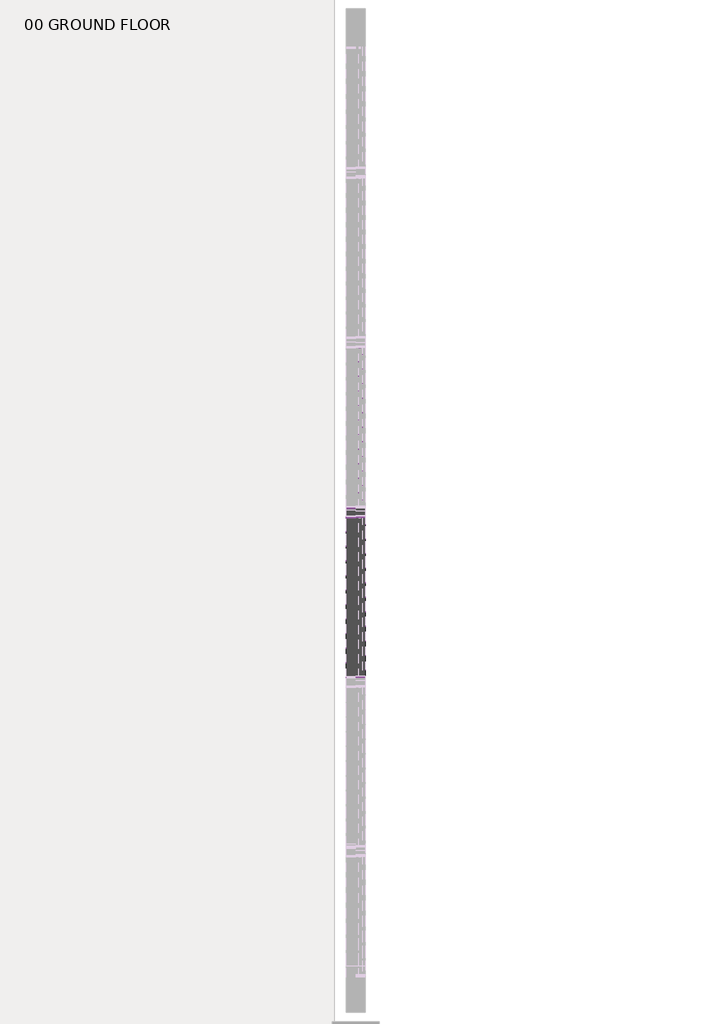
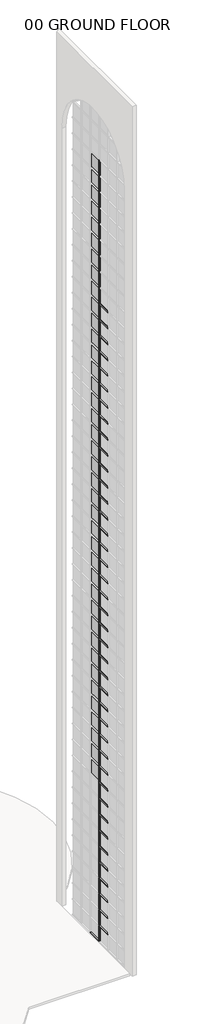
# One storey, part 18 of 33: 90 members, 39 plates.
"""IFC4 building model written with IfcOpenShell, lengths in millimetres."""

from ifc_helpers import new_model, si_unit, origin, place, context, project, spatial, transform, mapped, element, save
from components import member_14f97ceb, member_d1490fb0, member_2b49869a, system_panel_glazed_0919b3b7

model = new_model("IFC4")

# Units and contexts
model_context = context("Model", 3, world=origin())
ifc_project = project(units=[si_unit("LENGTHUNIT", "METRE", prefix="MILLI")], contexts=[model_context])

# Site, building, storey
site = spatial("IfcSite", under=ifc_project)
building = spatial("IfcBuilding", under=site)
storey = spatial("IfcBuildingStorey", under=building, Name="00 GROUND FLOOR", Elevation=0.0)

# Members
placement = place(None, origin())
member_shape = member_14f97ceb(model_context)
element("IfcMember", 1, ObjectType="Rectangular Mullion : 2.5\" x 5\" rectangular", at=placement, inside=storey, context=model_context, shape_type="MappedRepresentation", body=[
    mapped(member_shape, transform((44184.4050515, 4193.2678572, 0.0), x_axis=(0.0, 0.0, -1.0), y_axis=(1.0, 0.0, 0.0), z_axis=(0.0, -1.0, 0.0))),
])
member_2_shape = member_d1490fb0(model_context)
element("IfcMember", 2, ObjectType="Rectangular Mullion : 2.5\" x 5\" rectangular", at=placement, inside=storey, context=model_context, shape_type="MappedRepresentation", body=[
    mapped(member_2_shape, transform((44184.4050515, 4129.7678572, 1219.2), x_axis=(0.0, 0.0, 1.0), y_axis=(1.0, 0.0, 0.0), z_axis=(0.0, 1.0, 0.0))),
])
element("IfcMember", 3, ObjectType="Rectangular Mullion : 2.5\" x 5\" rectangular", at=placement, inside=storey, context=model_context, shape_type="MappedRepresentation", body=[
    mapped(member_2_shape, transform((44184.4050515, 4129.7678572, 2438.4), x_axis=(0.0, 0.0, 1.0), y_axis=(1.0, 0.0, 0.0), z_axis=(0.0, 1.0, 0.0))),
])
element("IfcMember", 4, ObjectType="Rectangular Mullion : 2.5\" x 5\" rectangular", at=placement, inside=storey, context=model_context, shape_type="MappedRepresentation", body=[
    mapped(member_2_shape, transform((44184.4050515, 4129.7678572, 3657.6), x_axis=(0.0, 0.0, 1.0), y_axis=(1.0, 0.0, 0.0), z_axis=(0.0, 1.0, 0.0))),
])
element("IfcMember", 5, ObjectType="Rectangular Mullion : 2.5\" x 5\" rectangular", at=placement, inside=storey, context=model_context, shape_type="MappedRepresentation", body=[
    mapped(member_2_shape, transform((44184.4050515, 4129.7678572, 4876.8), x_axis=(0.0, 0.0, 1.0), y_axis=(1.0, 0.0, 0.0), z_axis=(0.0, 1.0, 0.0))),
])
element("IfcMember", 6, ObjectType="Rectangular Mullion : 2.5\" x 5\" rectangular", at=placement, inside=storey, context=model_context, shape_type="MappedRepresentation", body=[
    mapped(member_2_shape, transform((44184.4050515, 4129.7678572, 6096.0), x_axis=(0.0, 0.0, 1.0), y_axis=(1.0, 0.0, 0.0), z_axis=(0.0, 1.0, 0.0))),
])
element("IfcMember", 7, ObjectType="Rectangular Mullion : 2.5\" x 5\" rectangular", at=placement, inside=storey, context=model_context, shape_type="MappedRepresentation", body=[
    mapped(member_2_shape, transform((44184.4050515, 4129.7678572, 7315.2), x_axis=(0.0, 0.0, 1.0), y_axis=(1.0, 0.0, 0.0), z_axis=(0.0, 1.0, 0.0))),
])
element("IfcMember", 8, ObjectType="Rectangular Mullion : 2.5\" x 5\" rectangular", at=placement, inside=storey, context=model_context, shape_type="MappedRepresentation", body=[
    mapped(member_2_shape, transform((44184.4050515, 4129.7678572, 8534.4), x_axis=(0.0, 0.0, 1.0), y_axis=(1.0, 0.0, 0.0), z_axis=(0.0, 1.0, 0.0))),
])
element("IfcMember", 9, ObjectType="Rectangular Mullion : 2.5\" x 5\" rectangular", at=placement, inside=storey, context=model_context, shape_type="MappedRepresentation", body=[
    mapped(member_2_shape, transform((44184.4050515, 4129.7678572, 9753.6), x_axis=(0.0, 0.0, 1.0), y_axis=(1.0, 0.0, 0.0), z_axis=(0.0, 1.0, 0.0))),
])
element("IfcMember", 10, ObjectType="Rectangular Mullion : 2.5\" x 5\" rectangular", at=placement, inside=storey, context=model_context, shape_type="MappedRepresentation", body=[
    mapped(member_2_shape, transform((44184.4050515, 4129.7678572, 10972.8), x_axis=(0.0, 0.0, 1.0), y_axis=(1.0, 0.0, 0.0), z_axis=(0.0, 1.0, 0.0))),
])
element("IfcMember", 11, ObjectType="Rectangular Mullion : 2.5\" x 5\" rectangular", at=placement, inside=storey, context=model_context, shape_type="MappedRepresentation", body=[
    mapped(member_2_shape, transform((44184.4050515, 4129.7678572, 12192.0), x_axis=(0.0, 0.0, 1.0), y_axis=(1.0, 0.0, 0.0), z_axis=(0.0, 1.0, 0.0))),
])
element("IfcMember", 12, ObjectType="Rectangular Mullion : 2.5\" x 5\" rectangular", at=placement, inside=storey, context=model_context, shape_type="MappedRepresentation", body=[
    mapped(member_2_shape, transform((44184.4050515, 4129.7678572, 13411.2), x_axis=(0.0, 0.0, 1.0), y_axis=(1.0, 0.0, 0.0), z_axis=(0.0, 1.0, 0.0))),
])
element("IfcMember", 13, ObjectType="Rectangular Mullion : 2.5\" x 5\" rectangular", at=placement, inside=storey, context=model_context, shape_type="MappedRepresentation", body=[
    mapped(member_2_shape, transform((44184.4050515, 4129.7678572, 14630.4), x_axis=(0.0, 0.0, 1.0), y_axis=(1.0, 0.0, 0.0), z_axis=(0.0, 1.0, 0.0))),
])
element("IfcMember", 14, ObjectType="Rectangular Mullion : 2.5\" x 5\" rectangular", at=placement, inside=storey, context=model_context, shape_type="MappedRepresentation", body=[
    mapped(member_2_shape, transform((44184.4050515, 4129.7678572, 15849.6), x_axis=(0.0, 0.0, 1.0), y_axis=(1.0, 0.0, 0.0), z_axis=(0.0, 1.0, 0.0))),
])
element("IfcMember", 15, ObjectType="Rectangular Mullion : 2.5\" x 5\" rectangular", at=placement, inside=storey, context=model_context, shape_type="MappedRepresentation", body=[
    mapped(member_2_shape, transform((44184.4050515, 4129.7678572, 17068.8), x_axis=(0.0, 0.0, 1.0), y_axis=(1.0, 0.0, 0.0), z_axis=(0.0, 1.0, 0.0))),
])
element("IfcMember", 16, ObjectType="Rectangular Mullion : 2.5\" x 5\" rectangular", at=placement, inside=storey, context=model_context, shape_type="MappedRepresentation", body=[
    mapped(member_2_shape, transform((44184.4050515, 4129.7678572, 18288.0), x_axis=(0.0, 0.0, 1.0), y_axis=(1.0, 0.0, 0.0), z_axis=(0.0, 1.0, 0.0))),
])
element("IfcMember", 17, ObjectType="Rectangular Mullion : 2.5\" x 5\" rectangular", at=placement, inside=storey, context=model_context, shape_type="MappedRepresentation", body=[
    mapped(member_2_shape, transform((44184.4050515, 4129.7678572, 19507.2), x_axis=(0.0, 0.0, 1.0), y_axis=(1.0, 0.0, 0.0), z_axis=(0.0, 1.0, 0.0))),
])
element("IfcMember", 18, ObjectType="Rectangular Mullion : 2.5\" x 5\" rectangular", at=placement, inside=storey, context=model_context, shape_type="MappedRepresentation", body=[
    mapped(member_2_shape, transform((44184.4050515, 4129.7678572, 20726.4), x_axis=(0.0, 0.0, 1.0), y_axis=(1.0, 0.0, 0.0), z_axis=(0.0, 1.0, 0.0))),
])
element("IfcMember", 19, ObjectType="Rectangular Mullion : 2.5\" x 5\" rectangular", at=placement, inside=storey, context=model_context, shape_type="MappedRepresentation", body=[
    mapped(member_2_shape, transform((44184.4050515, 4129.7678572, 21945.6), x_axis=(0.0, 0.0, 1.0), y_axis=(1.0, 0.0, 0.0), z_axis=(0.0, 1.0, 0.0))),
])
element("IfcMember", 20, ObjectType="Rectangular Mullion : 2.5\" x 5\" rectangular", at=placement, inside=storey, context=model_context, shape_type="MappedRepresentation", body=[
    mapped(member_2_shape, transform((44184.4050515, 4129.7678572, 23164.8), x_axis=(0.0, 0.0, 1.0), y_axis=(1.0, 0.0, 0.0), z_axis=(0.0, 1.0, 0.0))),
])
element("IfcMember", 21, ObjectType="Rectangular Mullion : 2.5\" x 5\" rectangular", at=placement, inside=storey, context=model_context, shape_type="MappedRepresentation", body=[
    mapped(member_2_shape, transform((44184.4050515, 4129.7678572, 24384.0), x_axis=(0.0, 0.0, 1.0), y_axis=(1.0, 0.0, 0.0), z_axis=(0.0, 1.0, 0.0))),
])
element("IfcMember", 22, ObjectType="Rectangular Mullion : 2.5\" x 5\" rectangular", at=placement, inside=storey, context=model_context, shape_type="MappedRepresentation", body=[
    mapped(member_2_shape, transform((44184.4050515, 4129.7678572, 25603.2), x_axis=(0.0, 0.0, 1.0), y_axis=(1.0, 0.0, 0.0), z_axis=(0.0, 1.0, 0.0))),
])
element("IfcMember", 23, ObjectType="Rectangular Mullion : 2.5\" x 5\" rectangular", at=placement, inside=storey, context=model_context, shape_type="MappedRepresentation", body=[
    mapped(member_2_shape, transform((44184.4050515, 4129.7678572, 26822.4), x_axis=(0.0, 0.0, 1.0), y_axis=(1.0, 0.0, 0.0), z_axis=(0.0, 1.0, 0.0))),
])
element("IfcMember", 24, ObjectType="Rectangular Mullion : 2.5\" x 5\" rectangular", at=placement, inside=storey, context=model_context, shape_type="MappedRepresentation", body=[
    mapped(member_2_shape, transform((44184.4050515, 4129.7678572, 28041.6), x_axis=(0.0, 0.0, 1.0), y_axis=(1.0, 0.0, 0.0), z_axis=(0.0, 1.0, 0.0))),
])
element("IfcMember", 25, ObjectType="Rectangular Mullion : 2.5\" x 5\" rectangular", at=placement, inside=storey, context=model_context, shape_type="MappedRepresentation", body=[
    mapped(member_2_shape, transform((44184.4050515, 4129.7678572, 29260.8), x_axis=(0.0, 0.0, 1.0), y_axis=(1.0, 0.0, 0.0), z_axis=(0.0, 1.0, 0.0))),
])
element("IfcMember", 26, ObjectType="Rectangular Mullion : 2.5\" x 5\" rectangular", at=placement, inside=storey, context=model_context, shape_type="MappedRepresentation", body=[
    mapped(member_2_shape, transform((44184.4050515, 4129.7678572, 30480.0), x_axis=(0.0, 0.0, 1.0), y_axis=(1.0, 0.0, 0.0), z_axis=(0.0, 1.0, 0.0))),
])
element("IfcMember", 27, ObjectType="Rectangular Mullion : 2.5\" x 5\" rectangular", at=placement, inside=storey, context=model_context, shape_type="MappedRepresentation", body=[
    mapped(member_2_shape, transform((44184.4050515, 4129.7678572, 31699.2), x_axis=(0.0, 0.0, 1.0), y_axis=(1.0, 0.0, 0.0), z_axis=(0.0, 1.0, 0.0))),
])
element("IfcMember", 28, ObjectType="Rectangular Mullion : 2.5\" x 5\" rectangular", at=placement, inside=storey, context=model_context, shape_type="MappedRepresentation", body=[
    mapped(member_2_shape, transform((44184.4050515, 4129.7678572, 32918.4), x_axis=(0.0, 0.0, 1.0), y_axis=(1.0, 0.0, 0.0), z_axis=(0.0, 1.0, 0.0))),
])
element("IfcMember", 29, ObjectType="Rectangular Mullion : 2.5\" x 5\" rectangular", at=placement, inside=storey, context=model_context, shape_type="MappedRepresentation", body=[
    mapped(member_2_shape, transform((44184.4050515, 4129.7678572, 34137.6), x_axis=(0.0, 0.0, 1.0), y_axis=(1.0, 0.0, 0.0), z_axis=(0.0, 1.0, 0.0))),
])
element("IfcMember", 30, ObjectType="Rectangular Mullion : 2.5\" x 5\" rectangular", at=placement, inside=storey, context=model_context, shape_type="MappedRepresentation", body=[
    mapped(member_2_shape, transform((44184.4050515, 4129.7678572, 35356.8), x_axis=(0.0, 0.0, 1.0), y_axis=(1.0, 0.0, 0.0), z_axis=(0.0, 1.0, 0.0))),
])
element("IfcMember", 31, ObjectType="Rectangular Mullion : 2.5\" x 5\" rectangular", at=placement, inside=storey, context=model_context, shape_type="MappedRepresentation", body=[
    mapped(member_2_shape, transform((44184.4050515, 4129.7678572, 36576.0), x_axis=(0.0, 0.0, 1.0), y_axis=(1.0, 0.0, 0.0), z_axis=(0.0, 1.0, 0.0))),
])
element("IfcMember", 32, ObjectType="Rectangular Mullion : 2.5\" x 5\" rectangular", at=placement, inside=storey, context=model_context, shape_type="MappedRepresentation", body=[
    mapped(member_2_shape, transform((44184.4050515, 4129.7678572, 37795.2), x_axis=(0.0, 0.0, 1.0), y_axis=(1.0, 0.0, 0.0), z_axis=(0.0, 1.0, 0.0))),
])
element("IfcMember", 33, ObjectType="Rectangular Mullion : 2.5\" x 5\" rectangular", at=placement, inside=storey, context=model_context, shape_type="MappedRepresentation", body=[
    mapped(member_2_shape, transform((44184.4050515, 4129.7678572, 39014.4), x_axis=(0.0, 0.0, 1.0), y_axis=(1.0, 0.0, 0.0), z_axis=(0.0, 1.0, 0.0))),
])
element("IfcMember", 34, ObjectType="Rectangular Mullion : 2.5\" x 5\" rectangular", at=placement, inside=storey, context=model_context, shape_type="MappedRepresentation", body=[
    mapped(member_2_shape, transform((44184.4050515, 4129.7678572, 40233.6), x_axis=(0.0, 0.0, 1.0), y_axis=(1.0, 0.0, 0.0), z_axis=(0.0, 1.0, 0.0))),
])
element("IfcMember", 35, ObjectType="Rectangular Mullion : 2.5\" x 5\" rectangular", at=placement, inside=storey, context=model_context, shape_type="MappedRepresentation", body=[
    mapped(member_2_shape, transform((44184.4050515, 4129.7678572, 41452.8), x_axis=(0.0, 0.0, 1.0), y_axis=(1.0, 0.0, 0.0), z_axis=(0.0, 1.0, 0.0))),
])
element("IfcMember", 36, ObjectType="Rectangular Mullion : 2.5\" x 5\" rectangular", at=placement, inside=storey, context=model_context, shape_type="MappedRepresentation", body=[
    mapped(member_2_shape, transform((44184.4050515, 4129.7678572, 42672.0), x_axis=(0.0, 0.0, 1.0), y_axis=(1.0, 0.0, 0.0), z_axis=(0.0, 1.0, 0.0))),
])
element("IfcMember", 37, ObjectType="Rectangular Mullion : 2.5\" x 5\" rectangular", at=placement, inside=storey, context=model_context, shape_type="MappedRepresentation", body=[
    mapped(member_2_shape, transform((44184.4050515, 4129.7678572, 43891.2), x_axis=(0.0, 0.0, 1.0), y_axis=(1.0, 0.0, 0.0), z_axis=(0.0, 1.0, 0.0))),
])
element("IfcMember", 38, ObjectType="Rectangular Mullion : 2.5\" x 5\" rectangular", at=placement, inside=storey, context=model_context, shape_type="MappedRepresentation", body=[
    mapped(member_2_shape, transform((44184.4050515, 4129.7678572, 45110.4), x_axis=(0.0, 0.0, 1.0), y_axis=(1.0, 0.0, 0.0), z_axis=(0.0, 1.0, 0.0))),
])
element("IfcMember", 39, ObjectType="Rectangular Mullion : 2.5\" x 5\" rectangular", at=placement, inside=storey, context=model_context, shape_type="MappedRepresentation", body=[
    mapped(member_2_shape, transform((44184.4050515, 4129.7678572, 46329.6), x_axis=(0.0, 0.0, 1.0), y_axis=(1.0, 0.0, 0.0), z_axis=(0.0, 1.0, 0.0))),
])
element("IfcMember", 40, ObjectType="Rectangular Mullion : 2.5\" x 5\" rectangular", at=placement, inside=storey, context=model_context, shape_type="MappedRepresentation", body=[
    mapped(member_2_shape, transform((44184.4050515, 4129.7678572, 47548.8), x_axis=(0.0, 0.0, 1.0), y_axis=(1.0, 0.0, 0.0), z_axis=(0.0, 1.0, 0.0))),
])
element("IfcMember", 41, ObjectType="Rectangular Mullion : 2.5\" x 5\" rectangular", at=placement, inside=storey, context=model_context, shape_type="MappedRepresentation", body=[
    mapped(member_2_shape, transform((44184.4050515, 4129.7678572, 48768.0), x_axis=(0.0, 0.0, 1.0), y_axis=(1.0, 0.0, 0.0), z_axis=(0.0, 1.0, 0.0))),
])
member_3_shape = member_2b49869a(model_context)
element("IfcMember", 42, ObjectType="Rectangular Mullion : 2.5\" x 5\" rectangular", at=placement, inside=storey, context=model_context, shape_type="MappedRepresentation", body=[
    mapped(member_3_shape, transform((44184.4050515, 4161.5178572, 0.0), x_axis=(0.0, 1.0, 0.0), y_axis=(1.0, 0.0, 0.0), z_axis=(0.0, 0.0, -1.0))),
])
element("IfcMember", 43, ObjectType="Rectangular Mullion : 2.5\" x 5\" rectangular", at=placement, inside=storey, context=model_context, shape_type="MappedRepresentation", body=[
    mapped(member_3_shape, transform((44184.4050515, 4161.5178572, 1219.2), x_axis=(0.0, 1.0, 0.0), y_axis=(1.0, 0.0, 0.0), z_axis=(0.0, 0.0, -1.0))),
])
element("IfcMember", 44, ObjectType="Rectangular Mullion : 2.5\" x 5\" rectangular", at=placement, inside=storey, context=model_context, shape_type="MappedRepresentation", body=[
    mapped(member_3_shape, transform((44184.4050515, 4161.5178572, 2438.4), x_axis=(0.0, 1.0, 0.0), y_axis=(1.0, 0.0, 0.0), z_axis=(0.0, 0.0, -1.0))),
])
element("IfcMember", 45, ObjectType="Rectangular Mullion : 2.5\" x 5\" rectangular", at=placement, inside=storey, context=model_context, shape_type="MappedRepresentation", body=[
    mapped(member_3_shape, transform((44184.4050515, 4161.5178572, 3657.6), x_axis=(0.0, 1.0, 0.0), y_axis=(1.0, 0.0, 0.0), z_axis=(0.0, 0.0, -1.0))),
])
element("IfcMember", 46, ObjectType="Rectangular Mullion : 2.5\" x 5\" rectangular", at=placement, inside=storey, context=model_context, shape_type="MappedRepresentation", body=[
    mapped(member_3_shape, transform((44184.4050515, 4161.5178572, 4876.8), x_axis=(0.0, 1.0, 0.0), y_axis=(1.0, 0.0, 0.0), z_axis=(0.0, 0.0, -1.0))),
])
element("IfcMember", 47, ObjectType="Rectangular Mullion : 2.5\" x 5\" rectangular", at=placement, inside=storey, context=model_context, shape_type="MappedRepresentation", body=[
    mapped(member_3_shape, transform((44184.4050515, 4161.5178572, 6096.0), x_axis=(0.0, 1.0, 0.0), y_axis=(1.0, 0.0, 0.0), z_axis=(0.0, 0.0, -1.0))),
])
element("IfcMember", 48, ObjectType="Rectangular Mullion : 2.5\" x 5\" rectangular", at=placement, inside=storey, context=model_context, shape_type="MappedRepresentation", body=[
    mapped(member_3_shape, transform((44184.4050515, 4161.5178572, 7315.2), x_axis=(0.0, 1.0, 0.0), y_axis=(1.0, 0.0, 0.0), z_axis=(0.0, 0.0, -1.0))),
])
element("IfcMember", 49, ObjectType="Rectangular Mullion : 2.5\" x 5\" rectangular", at=placement, inside=storey, context=model_context, shape_type="MappedRepresentation", body=[
    mapped(member_3_shape, transform((44184.4050515, 4161.5178572, 8534.4), x_axis=(0.0, 1.0, 0.0), y_axis=(1.0, 0.0, 0.0), z_axis=(0.0, 0.0, -1.0))),
])
element("IfcMember", 50, ObjectType="Rectangular Mullion : 2.5\" x 5\" rectangular", at=placement, inside=storey, context=model_context, shape_type="MappedRepresentation", body=[
    mapped(member_3_shape, transform((44184.4050515, 4161.5178572, 9753.6), x_axis=(0.0, 1.0, 0.0), y_axis=(1.0, 0.0, 0.0), z_axis=(0.0, 0.0, -1.0))),
])
element("IfcMember", 51, ObjectType="Rectangular Mullion : 2.5\" x 5\" rectangular", at=placement, inside=storey, context=model_context, shape_type="MappedRepresentation", body=[
    mapped(member_3_shape, transform((44184.4050515, 4161.5178572, 10972.8), x_axis=(0.0, 1.0, 0.0), y_axis=(1.0, 0.0, 0.0), z_axis=(0.0, 0.0, -1.0))),
])
element("IfcMember", 52, ObjectType="Rectangular Mullion : 2.5\" x 5\" rectangular", at=placement, inside=storey, context=model_context, shape_type="MappedRepresentation", body=[
    mapped(member_3_shape, transform((44184.4050515, 4161.5178572, 12192.0), x_axis=(0.0, 1.0, 0.0), y_axis=(1.0, 0.0, 0.0), z_axis=(0.0, 0.0, -1.0))),
])
element("IfcMember", 53, ObjectType="Rectangular Mullion : 2.5\" x 5\" rectangular", at=placement, inside=storey, context=model_context, shape_type="MappedRepresentation", body=[
    mapped(member_3_shape, transform((44184.4050515, 4161.5178572, 13411.2), x_axis=(0.0, 1.0, 0.0), y_axis=(1.0, 0.0, 0.0), z_axis=(0.0, 0.0, -1.0))),
])
element("IfcMember", 54, ObjectType="Rectangular Mullion : 2.5\" x 5\" rectangular", at=placement, inside=storey, context=model_context, shape_type="MappedRepresentation", body=[
    mapped(member_3_shape, transform((44184.4050515, 4161.5178572, 14630.4), x_axis=(0.0, 1.0, 0.0), y_axis=(1.0, 0.0, 0.0), z_axis=(0.0, 0.0, -1.0))),
])
element("IfcMember", 55, ObjectType="Rectangular Mullion : 2.5\" x 5\" rectangular", at=placement, inside=storey, context=model_context, shape_type="MappedRepresentation", body=[
    mapped(member_3_shape, transform((44184.4050515, 4161.5178572, 15849.6), x_axis=(0.0, 1.0, 0.0), y_axis=(1.0, 0.0, 0.0), z_axis=(0.0, 0.0, -1.0))),
])
element("IfcMember", 56, ObjectType="Rectangular Mullion : 2.5\" x 5\" rectangular", at=placement, inside=storey, context=model_context, shape_type="MappedRepresentation", body=[
    mapped(member_3_shape, transform((44184.4050515, 4161.5178572, 17068.8), x_axis=(0.0, 1.0, 0.0), y_axis=(1.0, 0.0, 0.0), z_axis=(0.0, 0.0, -1.0))),
])
element("IfcMember", 57, ObjectType="Rectangular Mullion : 2.5\" x 5\" rectangular", at=placement, inside=storey, context=model_context, shape_type="MappedRepresentation", body=[
    mapped(member_3_shape, transform((44184.4050515, 4161.5178572, 18288.0), x_axis=(0.0, 1.0, 0.0), y_axis=(1.0, 0.0, 0.0), z_axis=(0.0, 0.0, -1.0))),
])
element("IfcMember", 58, ObjectType="Rectangular Mullion : 2.5\" x 5\" rectangular", at=placement, inside=storey, context=model_context, shape_type="MappedRepresentation", body=[
    mapped(member_3_shape, transform((44184.4050515, 4161.5178572, 19507.2), x_axis=(0.0, 1.0, 0.0), y_axis=(1.0, 0.0, 0.0), z_axis=(0.0, 0.0, -1.0))),
])
element("IfcMember", 59, ObjectType="Rectangular Mullion : 2.5\" x 5\" rectangular", at=placement, inside=storey, context=model_context, shape_type="MappedRepresentation", body=[
    mapped(member_3_shape, transform((44184.4050515, 4161.5178572, 20726.4), x_axis=(0.0, 1.0, 0.0), y_axis=(1.0, 0.0, 0.0), z_axis=(0.0, 0.0, -1.0))),
])
element("IfcMember", 60, ObjectType="Rectangular Mullion : 2.5\" x 5\" rectangular", at=placement, inside=storey, context=model_context, shape_type="MappedRepresentation", body=[
    mapped(member_3_shape, transform((44184.4050515, 4161.5178572, 21945.6), x_axis=(0.0, 1.0, 0.0), y_axis=(1.0, 0.0, 0.0), z_axis=(0.0, 0.0, -1.0))),
])
element("IfcMember", 61, ObjectType="Rectangular Mullion : 2.5\" x 5\" rectangular", at=placement, inside=storey, context=model_context, shape_type="MappedRepresentation", body=[
    mapped(member_3_shape, transform((44184.4050515, 4161.5178572, 23164.8), x_axis=(0.0, 1.0, 0.0), y_axis=(1.0, 0.0, 0.0), z_axis=(0.0, 0.0, -1.0))),
])
element("IfcMember", 62, ObjectType="Rectangular Mullion : 2.5\" x 5\" rectangular", at=placement, inside=storey, context=model_context, shape_type="MappedRepresentation", body=[
    mapped(member_3_shape, transform((44184.4050515, 4161.5178572, 24384.0), x_axis=(0.0, 1.0, 0.0), y_axis=(1.0, 0.0, 0.0), z_axis=(0.0, 0.0, -1.0))),
])
element("IfcMember", 63, ObjectType="Rectangular Mullion : 2.5\" x 5\" rectangular", at=placement, inside=storey, context=model_context, shape_type="MappedRepresentation", body=[
    mapped(member_3_shape, transform((44184.4050515, 4161.5178572, 25603.2), x_axis=(0.0, 1.0, 0.0), y_axis=(1.0, 0.0, 0.0), z_axis=(0.0, 0.0, -1.0))),
])
element("IfcMember", 64, ObjectType="Rectangular Mullion : 2.5\" x 5\" rectangular", at=placement, inside=storey, context=model_context, shape_type="MappedRepresentation", body=[
    mapped(member_3_shape, transform((44184.4050515, 4161.5178572, 26822.4), x_axis=(0.0, 1.0, 0.0), y_axis=(1.0, 0.0, 0.0), z_axis=(0.0, 0.0, -1.0))),
])
element("IfcMember", 65, ObjectType="Rectangular Mullion : 2.5\" x 5\" rectangular", at=placement, inside=storey, context=model_context, shape_type="MappedRepresentation", body=[
    mapped(member_3_shape, transform((44184.4050515, 4161.5178572, 28041.6), x_axis=(0.0, 1.0, 0.0), y_axis=(1.0, 0.0, 0.0), z_axis=(0.0, 0.0, -1.0))),
])
element("IfcMember", 66, ObjectType="Rectangular Mullion : 2.5\" x 5\" rectangular", at=placement, inside=storey, context=model_context, shape_type="MappedRepresentation", body=[
    mapped(member_3_shape, transform((44184.4050515, 4161.5178572, 29260.8), x_axis=(0.0, 1.0, 0.0), y_axis=(1.0, 0.0, 0.0), z_axis=(0.0, 0.0, -1.0))),
])
element("IfcMember", 67, ObjectType="Rectangular Mullion : 2.5\" x 5\" rectangular", at=placement, inside=storey, context=model_context, shape_type="MappedRepresentation", body=[
    mapped(member_3_shape, transform((44184.4050515, 4161.5178572, 30480.0), x_axis=(0.0, 1.0, 0.0), y_axis=(1.0, 0.0, 0.0), z_axis=(0.0, 0.0, -1.0))),
])
element("IfcMember", 68, ObjectType="Rectangular Mullion : 2.5\" x 5\" rectangular", at=placement, inside=storey, context=model_context, shape_type="MappedRepresentation", body=[
    mapped(member_3_shape, transform((44184.4050515, 4161.5178572, 31699.2), x_axis=(0.0, 1.0, 0.0), y_axis=(1.0, 0.0, 0.0), z_axis=(0.0, 0.0, -1.0))),
])
element("IfcMember", 69, ObjectType="Rectangular Mullion : 2.5\" x 5\" rectangular", at=placement, inside=storey, context=model_context, shape_type="MappedRepresentation", body=[
    mapped(member_3_shape, transform((44184.4050515, 4161.5178572, 32918.4), x_axis=(0.0, 1.0, 0.0), y_axis=(1.0, 0.0, 0.0), z_axis=(0.0, 0.0, -1.0))),
])
element("IfcMember", 70, ObjectType="Rectangular Mullion : 2.5\" x 5\" rectangular", at=placement, inside=storey, context=model_context, shape_type="MappedRepresentation", body=[
    mapped(member_3_shape, transform((44184.4050515, 4161.5178572, 34137.6), x_axis=(0.0, 1.0, 0.0), y_axis=(1.0, 0.0, 0.0), z_axis=(0.0, 0.0, -1.0))),
])
element("IfcMember", 71, ObjectType="Rectangular Mullion : 2.5\" x 5\" rectangular", at=placement, inside=storey, context=model_context, shape_type="MappedRepresentation", body=[
    mapped(member_3_shape, transform((44184.4050515, 4161.5178572, 35356.8), x_axis=(0.0, 1.0, 0.0), y_axis=(1.0, 0.0, 0.0), z_axis=(0.0, 0.0, -1.0))),
])
element("IfcMember", 72, ObjectType="Rectangular Mullion : 2.5\" x 5\" rectangular", at=placement, inside=storey, context=model_context, shape_type="MappedRepresentation", body=[
    mapped(member_3_shape, transform((44184.4050515, 4161.5178572, 36576.0), x_axis=(0.0, 1.0, 0.0), y_axis=(1.0, 0.0, 0.0), z_axis=(0.0, 0.0, -1.0))),
])
element("IfcMember", 73, ObjectType="Rectangular Mullion : 2.5\" x 5\" rectangular", at=placement, inside=storey, context=model_context, shape_type="MappedRepresentation", body=[
    mapped(member_3_shape, transform((44184.4050515, 4161.5178572, 37795.2), x_axis=(0.0, 1.0, 0.0), y_axis=(1.0, 0.0, 0.0), z_axis=(0.0, 0.0, -1.0))),
])
element("IfcMember", 74, ObjectType="Rectangular Mullion : 2.5\" x 5\" rectangular", at=placement, inside=storey, context=model_context, shape_type="MappedRepresentation", body=[
    mapped(member_3_shape, transform((44184.4050515, 4161.5178572, 39014.4), x_axis=(0.0, 1.0, 0.0), y_axis=(1.0, 0.0, 0.0), z_axis=(0.0, 0.0, -1.0))),
])
element("IfcMember", 75, ObjectType="Rectangular Mullion : 2.5\" x 5\" rectangular", at=placement, inside=storey, context=model_context, shape_type="MappedRepresentation", body=[
    mapped(member_3_shape, transform((44184.4050515, 4161.5178572, 40233.6), x_axis=(0.0, 1.0, 0.0), y_axis=(1.0, 0.0, 0.0), z_axis=(0.0, 0.0, -1.0))),
])
element("IfcMember", 76, ObjectType="Rectangular Mullion : 2.5\" x 5\" rectangular", at=placement, inside=storey, context=model_context, shape_type="MappedRepresentation", body=[
    mapped(member_3_shape, transform((44184.4050515, 4161.5178572, 41452.8), x_axis=(0.0, 1.0, 0.0), y_axis=(1.0, 0.0, 0.0), z_axis=(0.0, 0.0, -1.0))),
])
element("IfcMember", 77, ObjectType="Rectangular Mullion : 2.5\" x 5\" rectangular", at=placement, inside=storey, context=model_context, shape_type="MappedRepresentation", body=[
    mapped(member_3_shape, transform((44184.4050515, 4161.5178572, 42672.0), x_axis=(0.0, 1.0, 0.0), y_axis=(1.0, 0.0, 0.0), z_axis=(0.0, 0.0, -1.0))),
])
element("IfcMember", 78, ObjectType="Rectangular Mullion : 2.5\" x 5\" rectangular", at=placement, inside=storey, context=model_context, shape_type="MappedRepresentation", body=[
    mapped(member_3_shape, transform((44184.4050515, 4161.5178572, 43891.2), x_axis=(0.0, 1.0, 0.0), y_axis=(1.0, 0.0, 0.0), z_axis=(0.0, 0.0, -1.0))),
])
element("IfcMember", 79, ObjectType="Rectangular Mullion : 2.5\" x 5\" rectangular", at=placement, inside=storey, context=model_context, shape_type="MappedRepresentation", body=[
    mapped(member_3_shape, transform((44184.4050515, 4161.5178572, 45110.4), x_axis=(0.0, 1.0, 0.0), y_axis=(1.0, 0.0, 0.0), z_axis=(0.0, 0.0, -1.0))),
])
element("IfcMember", 80, ObjectType="Rectangular Mullion : 2.5\" x 5\" rectangular", at=placement, inside=storey, context=model_context, shape_type="MappedRepresentation", body=[
    mapped(member_3_shape, transform((44184.4050515, 4161.5178572, 46329.6), x_axis=(0.0, 1.0, 0.0), y_axis=(1.0, 0.0, 0.0), z_axis=(0.0, 0.0, -1.0))),
])
element("IfcMember", 81, ObjectType="Rectangular Mullion : 2.5\" x 5\" rectangular", at=placement, inside=storey, context=model_context, shape_type="MappedRepresentation", body=[
    mapped(member_3_shape, transform((44184.4050515, 4161.5178572, 47548.8), x_axis=(0.0, 1.0, 0.0), y_axis=(1.0, 0.0, 0.0), z_axis=(0.0, 0.0, -1.0))),
])
element("IfcMember", 82, ObjectType="Rectangular Mullion : 2.5\" x 5\" rectangular", at=placement, inside=storey, context=model_context, shape_type="MappedRepresentation", body=[
    mapped(member_3_shape, transform((44184.4050515, 4161.5178572, 48768.0), x_axis=(0.0, 1.0, 0.0), y_axis=(1.0, 0.0, 0.0), z_axis=(0.0, 0.0, -1.0))),
])
element("IfcMember", 83, ObjectType="Rectangular Mullion : 2.5\" x 5\" rectangular", at=placement, inside=storey, context=model_context, shape_type="MappedRepresentation", body=[
    mapped(member_3_shape, transform((44184.4050515, 4161.5178572, 49987.2), x_axis=(0.0, 1.0, 0.0), y_axis=(1.0, 0.0, 0.0), z_axis=(0.0, 0.0, -1.0))),
])
element("IfcMember", 84, ObjectType="Rectangular Mullion : 2.5\" x 5\" rectangular", at=placement, inside=storey, context=model_context, shape_type="MappedRepresentation", body=[
    mapped(member_3_shape, transform((44184.4050515, 4161.5178572, 51206.4), x_axis=(0.0, 1.0, 0.0), y_axis=(1.0, 0.0, 0.0), z_axis=(0.0, 0.0, -1.0))),
])
element("IfcMember", 85, ObjectType="Rectangular Mullion : 2.5\" x 5\" rectangular", at=placement, inside=storey, context=model_context, shape_type="MappedRepresentation", body=[
    mapped(member_3_shape, transform((44184.4050515, 4161.5178572, 52425.6), x_axis=(0.0, 1.0, 0.0), y_axis=(1.0, 0.0, 0.0), z_axis=(0.0, 0.0, -1.0))),
])
element("IfcMember", 86, ObjectType="Rectangular Mullion : 2.5\" x 5\" rectangular", at=placement, inside=storey, context=model_context, shape_type="MappedRepresentation", body=[
    mapped(member_3_shape, transform((44184.4050515, 4161.5178572, 53644.8), x_axis=(0.0, 1.0, 0.0), y_axis=(1.0, 0.0, 0.0), z_axis=(0.0, 0.0, -1.0))),
])
element("IfcMember", 87, ObjectType="Rectangular Mullion : 2.5\" x 5\" rectangular", at=placement, inside=storey, context=model_context, shape_type="MappedRepresentation", body=[
    mapped(member_3_shape, transform((44184.4050515, 4161.5178572, 54864.0), x_axis=(0.0, 1.0, 0.0), y_axis=(1.0, 0.0, 0.0), z_axis=(0.0, 0.0, -1.0))),
])
element("IfcMember", 88, ObjectType="Rectangular Mullion : 2.5\" x 5\" rectangular", at=placement, inside=storey, context=model_context, shape_type="MappedRepresentation", body=[
    mapped(member_3_shape, transform((44184.4050515, 4161.5178572, 56083.2), x_axis=(0.0, 1.0, 0.0), y_axis=(1.0, 0.0, 0.0), z_axis=(0.0, 0.0, -1.0))),
])
element("IfcMember", 89, ObjectType="Rectangular Mullion : 2.5\" x 5\" rectangular", at=placement, inside=storey, context=model_context, shape_type="MappedRepresentation", body=[
    mapped(member_3_shape, transform((44184.4050515, 4161.5178572, 57302.4), x_axis=(0.0, 1.0, 0.0), y_axis=(1.0, 0.0, 0.0), z_axis=(0.0, 0.0, -1.0))),
])
element("IfcMember", 90, ObjectType="Rectangular Mullion : 2.5\" x 5\" rectangular", at=placement, inside=storey, context=model_context, shape_type="MappedRepresentation", body=[
    mapped(member_3_shape, transform((44184.4050515, 4161.5178572, 58521.6), x_axis=(0.0, 1.0, 0.0), y_axis=(1.0, 0.0, 0.0), z_axis=(0.0, 0.0, -1.0))),
])

# Plates
system_panel_glazed_shape = system_panel_glazed_0919b3b7(model_context)
element("IfcPlate", 91, ObjectType="System Panel : Glazed", at=placement, inside=storey, context=model_context, shape_type="MappedRepresentation", body=[
    mapped(system_panel_glazed_shape, transform((44184.4050515, 4727.575, 12223.75), x_axis=(0.0, 1.0, 0.0), y_axis=(-1.0, 0.0, 0.0), z_axis=(0.0, 0.0, 1.0))),
])
element("IfcPlate", 92, ObjectType="System Panel : Glazed", at=placement, inside=storey, context=model_context, shape_type="MappedRepresentation", body=[
    mapped(system_panel_glazed_shape, transform((44184.4050515, 4727.575, 13442.95), x_axis=(0.0, 1.0, 0.0), y_axis=(-1.0, 0.0, 0.0), z_axis=(0.0, 0.0, 1.0))),
])
element("IfcPlate", 93, ObjectType="System Panel : Glazed", at=placement, inside=storey, context=model_context, shape_type="MappedRepresentation", body=[
    mapped(system_panel_glazed_shape, transform((44184.4050515, 4727.575, 14662.15), x_axis=(0.0, 1.0, 0.0), y_axis=(-1.0, 0.0, 0.0), z_axis=(0.0, 0.0, 1.0))),
])
element("IfcPlate", 94, ObjectType="System Panel : Glazed", at=placement, inside=storey, context=model_context, shape_type="MappedRepresentation", body=[
    mapped(system_panel_glazed_shape, transform((44184.4050515, 4727.575, 15881.35), x_axis=(0.0, 1.0, 0.0), y_axis=(-1.0, 0.0, 0.0), z_axis=(0.0, 0.0, 1.0))),
])
element("IfcPlate", 95, ObjectType="System Panel : Glazed", at=placement, inside=storey, context=model_context, shape_type="MappedRepresentation", body=[
    mapped(system_panel_glazed_shape, transform((44184.4050515, 4727.575, 17100.55), x_axis=(0.0, 1.0, 0.0), y_axis=(-1.0, 0.0, 0.0), z_axis=(0.0, 0.0, 1.0))),
])
element("IfcPlate", 96, ObjectType="System Panel : Glazed", at=placement, inside=storey, context=model_context, shape_type="MappedRepresentation", body=[
    mapped(system_panel_glazed_shape, transform((44184.4050515, 4727.575, 18319.75), x_axis=(0.0, 1.0, 0.0), y_axis=(-1.0, 0.0, 0.0), z_axis=(0.0, 0.0, 1.0))),
])
element("IfcPlate", 97, ObjectType="System Panel : Glazed", at=placement, inside=storey, context=model_context, shape_type="MappedRepresentation", body=[
    mapped(system_panel_glazed_shape, transform((44184.4050515, 4727.575, 19538.95), x_axis=(0.0, 1.0, 0.0), y_axis=(-1.0, 0.0, 0.0), z_axis=(0.0, 0.0, 1.0))),
])
element("IfcPlate", 98, ObjectType="System Panel : Glazed", at=placement, inside=storey, context=model_context, shape_type="MappedRepresentation", body=[
    mapped(system_panel_glazed_shape, transform((44184.4050515, 4727.575, 20758.15), x_axis=(0.0, 1.0, 0.0), y_axis=(-1.0, 0.0, 0.0), z_axis=(0.0, 0.0, 1.0))),
])
element("IfcPlate", 99, ObjectType="System Panel : Glazed", at=placement, inside=storey, context=model_context, shape_type="MappedRepresentation", body=[
    mapped(system_panel_glazed_shape, transform((44184.4050515, 4727.575, 21977.35), x_axis=(0.0, 1.0, 0.0), y_axis=(-1.0, 0.0, 0.0), z_axis=(0.0, 0.0, 1.0))),
])
element("IfcPlate", 100, ObjectType="System Panel : Glazed", at=placement, inside=storey, context=model_context, shape_type="MappedRepresentation", body=[
    mapped(system_panel_glazed_shape, transform((44184.4050515, 4727.575, 23196.55), x_axis=(0.0, 1.0, 0.0), y_axis=(-1.0, 0.0, 0.0), z_axis=(0.0, 0.0, 1.0))),
])
element("IfcPlate", 101, ObjectType="System Panel : Glazed", at=placement, inside=storey, context=model_context, shape_type="MappedRepresentation", body=[
    mapped(system_panel_glazed_shape, transform((44184.4050515, 4727.575, 24415.75), x_axis=(0.0, 1.0, 0.0), y_axis=(-1.0, 0.0, 0.0), z_axis=(0.0, 0.0, 1.0))),
])
element("IfcPlate", 102, ObjectType="System Panel : Glazed", at=placement, inside=storey, context=model_context, shape_type="MappedRepresentation", body=[
    mapped(system_panel_glazed_shape, transform((44184.4050515, 4727.575, 25634.95), x_axis=(0.0, 1.0, 0.0), y_axis=(-1.0, 0.0, 0.0), z_axis=(0.0, 0.0, 1.0))),
])
element("IfcPlate", 103, ObjectType="System Panel : Glazed", at=placement, inside=storey, context=model_context, shape_type="MappedRepresentation", body=[
    mapped(system_panel_glazed_shape, transform((44184.4050515, 4727.575, 26854.15), x_axis=(0.0, 1.0, 0.0), y_axis=(-1.0, 0.0, 0.0), z_axis=(0.0, 0.0, 1.0))),
])
element("IfcPlate", 104, ObjectType="System Panel : Glazed", at=placement, inside=storey, context=model_context, shape_type="MappedRepresentation", body=[
    mapped(system_panel_glazed_shape, transform((44184.4050515, 4727.575, 28073.35), x_axis=(0.0, 1.0, 0.0), y_axis=(-1.0, 0.0, 0.0), z_axis=(0.0, 0.0, 1.0))),
])
element("IfcPlate", 105, ObjectType="System Panel : Glazed", at=placement, inside=storey, context=model_context, shape_type="MappedRepresentation", body=[
    mapped(system_panel_glazed_shape, transform((44184.4050515, 4727.575, 29292.55), x_axis=(0.0, 1.0, 0.0), y_axis=(-1.0, 0.0, 0.0), z_axis=(0.0, 0.0, 1.0))),
])
element("IfcPlate", 106, ObjectType="System Panel : Glazed", at=placement, inside=storey, context=model_context, shape_type="MappedRepresentation", body=[
    mapped(system_panel_glazed_shape, transform((44184.4050515, 4727.575, 30511.75), x_axis=(0.0, 1.0, 0.0), y_axis=(-1.0, 0.0, 0.0), z_axis=(0.0, 0.0, 1.0))),
])
element("IfcPlate", 107, ObjectType="System Panel : Glazed", at=placement, inside=storey, context=model_context, shape_type="MappedRepresentation", body=[
    mapped(system_panel_glazed_shape, transform((44184.4050515, 4727.575, 31730.95), x_axis=(0.0, 1.0, 0.0), y_axis=(-1.0, 0.0, 0.0), z_axis=(0.0, 0.0, 1.0))),
])
element("IfcPlate", 108, ObjectType="System Panel : Glazed", at=placement, inside=storey, context=model_context, shape_type="MappedRepresentation", body=[
    mapped(system_panel_glazed_shape, transform((44184.4050515, 4727.575, 32950.15), x_axis=(0.0, 1.0, 0.0), y_axis=(-1.0, 0.0, 0.0), z_axis=(0.0, 0.0, 1.0))),
])
element("IfcPlate", 109, ObjectType="System Panel : Glazed", at=placement, inside=storey, context=model_context, shape_type="MappedRepresentation", body=[
    mapped(system_panel_glazed_shape, transform((44184.4050515, 4727.575, 34169.35), x_axis=(0.0, 1.0, 0.0), y_axis=(-1.0, 0.0, 0.0), z_axis=(0.0, 0.0, 1.0))),
])
element("IfcPlate", 110, ObjectType="System Panel : Glazed", at=placement, inside=storey, context=model_context, shape_type="MappedRepresentation", body=[
    mapped(system_panel_glazed_shape, transform((44184.4050515, 4727.575, 35388.55), x_axis=(0.0, 1.0, 0.0), y_axis=(-1.0, 0.0, 0.0), z_axis=(0.0, 0.0, 1.0))),
])
element("IfcPlate", 111, ObjectType="System Panel : Glazed", at=placement, inside=storey, context=model_context, shape_type="MappedRepresentation", body=[
    mapped(system_panel_glazed_shape, transform((44184.4050515, 4727.575, 36607.75), x_axis=(0.0, 1.0, 0.0), y_axis=(-1.0, 0.0, 0.0), z_axis=(0.0, 0.0, 1.0))),
])
element("IfcPlate", 112, ObjectType="System Panel : Glazed", at=placement, inside=storey, context=model_context, shape_type="MappedRepresentation", body=[
    mapped(system_panel_glazed_shape, transform((44184.4050515, 4727.575, 37826.95), x_axis=(0.0, 1.0, 0.0), y_axis=(-1.0, 0.0, 0.0), z_axis=(0.0, 0.0, 1.0))),
])
element("IfcPlate", 113, ObjectType="System Panel : Glazed", at=placement, inside=storey, context=model_context, shape_type="MappedRepresentation", body=[
    mapped(system_panel_glazed_shape, transform((44184.4050515, 4727.575, 39046.15), x_axis=(0.0, 1.0, 0.0), y_axis=(-1.0, 0.0, 0.0), z_axis=(0.0, 0.0, 1.0))),
])
element("IfcPlate", 114, ObjectType="System Panel : Glazed", at=placement, inside=storey, context=model_context, shape_type="MappedRepresentation", body=[
    mapped(system_panel_glazed_shape, transform((44184.4050515, 4727.575, 40265.35), x_axis=(0.0, 1.0, 0.0), y_axis=(-1.0, 0.0, 0.0), z_axis=(0.0, 0.0, 1.0))),
])
element("IfcPlate", 115, ObjectType="System Panel : Glazed", at=placement, inside=storey, context=model_context, shape_type="MappedRepresentation", body=[
    mapped(system_panel_glazed_shape, transform((44184.4050515, 4727.575, 41484.55), x_axis=(0.0, 1.0, 0.0), y_axis=(-1.0, 0.0, 0.0), z_axis=(0.0, 0.0, 1.0))),
])
element("IfcPlate", 116, ObjectType="System Panel : Glazed", at=placement, inside=storey, context=model_context, shape_type="MappedRepresentation", body=[
    mapped(system_panel_glazed_shape, transform((44184.4050515, 4727.575, 42703.75), x_axis=(0.0, 1.0, 0.0), y_axis=(-1.0, 0.0, 0.0), z_axis=(0.0, 0.0, 1.0))),
])
element("IfcPlate", 117, ObjectType="System Panel : Glazed", at=placement, inside=storey, context=model_context, shape_type="MappedRepresentation", body=[
    mapped(system_panel_glazed_shape, transform((44184.4050515, 4727.575, 43922.95), x_axis=(0.0, 1.0, 0.0), y_axis=(-1.0, 0.0, 0.0), z_axis=(0.0, 0.0, 1.0))),
])
element("IfcPlate", 118, ObjectType="System Panel : Glazed", at=placement, inside=storey, context=model_context, shape_type="MappedRepresentation", body=[
    mapped(system_panel_glazed_shape, transform((44184.4050515, 4727.575, 45142.15), x_axis=(0.0, 1.0, 0.0), y_axis=(-1.0, 0.0, 0.0), z_axis=(0.0, 0.0, 1.0))),
])
element("IfcPlate", 119, ObjectType="System Panel : Glazed", at=placement, inside=storey, context=model_context, shape_type="MappedRepresentation", body=[
    mapped(system_panel_glazed_shape, transform((44184.4050515, 4727.575, 46361.35), x_axis=(0.0, 1.0, 0.0), y_axis=(-1.0, 0.0, 0.0), z_axis=(0.0, 0.0, 1.0))),
])
element("IfcPlate", 120, ObjectType="System Panel : Glazed", at=placement, inside=storey, context=model_context, shape_type="MappedRepresentation", body=[
    mapped(system_panel_glazed_shape, transform((44184.4050515, 4727.575, 47580.55), x_axis=(0.0, 1.0, 0.0), y_axis=(-1.0, 0.0, 0.0), z_axis=(0.0, 0.0, 1.0))),
])
element("IfcPlate", 121, ObjectType="System Panel : Glazed", at=placement, inside=storey, context=model_context, shape_type="MappedRepresentation", body=[
    mapped(system_panel_glazed_shape, transform((44184.4050515, 4727.575, 48799.75), x_axis=(0.0, 1.0, 0.0), y_axis=(-1.0, 0.0, 0.0), z_axis=(0.0, 0.0, 1.0))),
])
element("IfcPlate", 122, ObjectType="System Panel : Glazed", at=placement, inside=storey, context=model_context, shape_type="MappedRepresentation", body=[
    mapped(system_panel_glazed_shape, transform((44184.4050515, 4727.575, 50018.95), x_axis=(0.0, 1.0, 0.0), y_axis=(-1.0, 0.0, 0.0), z_axis=(0.0, 0.0, 1.0))),
])
element("IfcPlate", 123, ObjectType="System Panel : Glazed", at=placement, inside=storey, context=model_context, shape_type="MappedRepresentation", body=[
    mapped(system_panel_glazed_shape, transform((44184.4050515, 4727.575, 51238.15), x_axis=(0.0, 1.0, 0.0), y_axis=(-1.0, 0.0, 0.0), z_axis=(0.0, 0.0, 1.0))),
])
element("IfcPlate", 124, ObjectType="System Panel : Glazed", at=placement, inside=storey, context=model_context, shape_type="MappedRepresentation", body=[
    mapped(system_panel_glazed_shape, transform((44184.4050515, 4727.575, 52457.35), x_axis=(0.0, 1.0, 0.0), y_axis=(-1.0, 0.0, 0.0), z_axis=(0.0, 0.0, 1.0))),
])
element("IfcPlate", 125, ObjectType="System Panel : Glazed", at=placement, inside=storey, context=model_context, shape_type="MappedRepresentation", body=[
    mapped(system_panel_glazed_shape, transform((44184.4050515, 4727.575, 53676.55), x_axis=(0.0, 1.0, 0.0), y_axis=(-1.0, 0.0, 0.0), z_axis=(0.0, 0.0, 1.0))),
])
element("IfcPlate", 126, ObjectType="System Panel : Glazed", at=placement, inside=storey, context=model_context, shape_type="MappedRepresentation", body=[
    mapped(system_panel_glazed_shape, transform((44184.4050515, 4727.575, 54895.75), x_axis=(0.0, 1.0, 0.0), y_axis=(-1.0, 0.0, 0.0), z_axis=(0.0, 0.0, 1.0))),
])
element("IfcPlate", 127, ObjectType="System Panel : Glazed", at=placement, inside=storey, context=model_context, shape_type="MappedRepresentation", body=[
    mapped(system_panel_glazed_shape, transform((44184.4050515, 4727.575, 56114.95), x_axis=(0.0, 1.0, 0.0), y_axis=(-1.0, 0.0, 0.0), z_axis=(0.0, 0.0, 1.0))),
])
element("IfcPlate", 128, ObjectType="System Panel : Glazed", at=placement, inside=storey, context=model_context, shape_type="MappedRepresentation", body=[
    mapped(system_panel_glazed_shape, transform((44184.4050515, 4727.575, 57334.15), x_axis=(0.0, 1.0, 0.0), y_axis=(-1.0, 0.0, 0.0), z_axis=(0.0, 0.0, 1.0))),
])
element("IfcPlate", 129, ObjectType="System Panel : Glazed", at=placement, inside=storey, context=model_context, shape_type="MappedRepresentation", body=[
    mapped(system_panel_glazed_shape, transform((44184.4050515, 4727.575, 58553.35), x_axis=(0.0, 1.0, 0.0), y_axis=(-1.0, 0.0, 0.0), z_axis=(0.0, 0.0, 1.0))),
])

save(model, "model.ifc")
